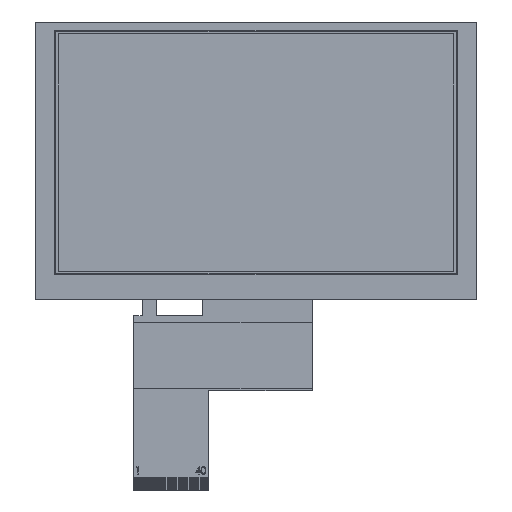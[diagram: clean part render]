
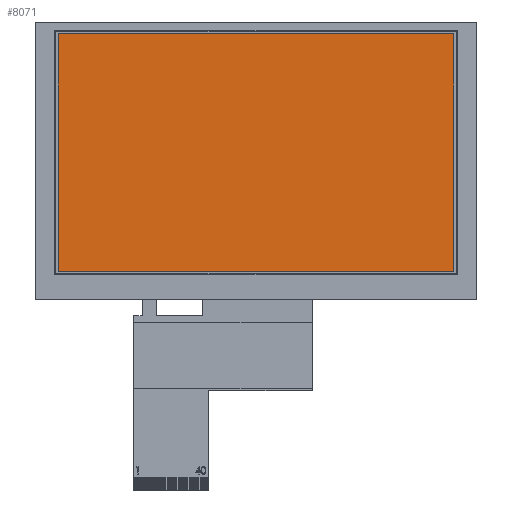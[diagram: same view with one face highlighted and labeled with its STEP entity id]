
A CAD part, top view. The second image highlights one B-rep face of the part: STEP entity #8071.
In plain terms, the highlighted planar face has unit normal (0, 0, 1).
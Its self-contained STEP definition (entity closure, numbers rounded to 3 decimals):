
#327 = CARTESIAN_POINT ( 'NONE',  ( -54., 32.4, 2.95 ) ) ;
#1069 = VERTEX_POINT ( 'NONE', #11224 ) ;
#1479 = CARTESIAN_POINT ( 'NONE',  ( 54., -32.4, 2.95 ) ) ;
#1866 = DIRECTION ( 'NONE',  ( 0., 0., 1. ) ) ;
#1997 = PLANE ( 'NONE',  #3409 ) ;
#2302 = CARTESIAN_POINT ( 'NONE',  ( 54., 32.4, 2.95 ) ) ;
#2408 = CARTESIAN_POINT ( 'NONE',  ( 0., -32.4, 2.95 ) ) ;
#3326 = VERTEX_POINT ( 'NONE', #1479 ) ;
#3386 = EDGE_LOOP ( 'NONE', ( #9704, #11694, #7693, #4337 ) ) ;
#3409 = AXIS2_PLACEMENT_3D ( 'NONE', #11037, #1866, #5941 ) ;
#3606 = CARTESIAN_POINT ( 'NONE',  ( 0., 32.4, 2.95 ) ) ;
#4337 = ORIENTED_EDGE ( 'NONE', *, *, #12070, .F. ) ;
#4524 = LINE ( 'NONE', #3606, #4824 ) ;
#4824 = VECTOR ( 'NONE', #12709, 1000. ) ;
#5043 = DIRECTION ( 'NONE',  ( 0., 1., 0. ) ) ;
#5147 = VERTEX_POINT ( 'NONE', #2302 ) ;
#5384 = CARTESIAN_POINT ( 'NONE',  ( 54., 0., 2.95 ) ) ;
#5475 = VECTOR ( 'NONE', #10227, 1000. ) ;
#5936 = EDGE_CURVE ( 'NONE', #3326, #1069, #6399, .T. ) ;
#5941 = DIRECTION ( 'NONE',  ( 1., 0., 0. ) ) ;
#6369 = LINE ( 'NONE', #5384, #5475 ) ;
#6399 = LINE ( 'NONE', #2408, #9696 ) ;
#6904 = VERTEX_POINT ( 'NONE', #327 ) ;
#7273 = LINE ( 'NONE', #10149, #7829 ) ;
#7693 = ORIENTED_EDGE ( 'NONE', *, *, #8873, .F. ) ;
#7829 = VECTOR ( 'NONE', #5043, 1000. ) ;
#7904 = FACE_OUTER_BOUND ( 'NONE', #3386, .T. ) ;
#8071 = ADVANCED_FACE ( 'NONE', ( #7904 ), #1997, .T. ) ;
#8502 = DIRECTION ( 'NONE',  ( -1., 0., 0. ) ) ;
#8873 = EDGE_CURVE ( 'NONE', #5147, #3326, #6369, .T. ) ;
#9696 = VECTOR ( 'NONE', #8502, 1000. ) ;
#9704 = ORIENTED_EDGE ( 'NONE', *, *, #9973, .F. ) ;
#9973 = EDGE_CURVE ( 'NONE', #1069, #6904, #7273, .T. ) ;
#10149 = CARTESIAN_POINT ( 'NONE',  ( -54., 0., 2.95 ) ) ;
#10227 = DIRECTION ( 'NONE',  ( 0., -1., 0. ) ) ;
#11037 = CARTESIAN_POINT ( 'NONE',  ( 0., 0., 2.95 ) ) ;
#11224 = CARTESIAN_POINT ( 'NONE',  ( -54., -32.4, 2.95 ) ) ;
#11694 = ORIENTED_EDGE ( 'NONE', *, *, #5936, .F. ) ;
#12070 = EDGE_CURVE ( 'NONE', #6904, #5147, #4524, .T. ) ;
#12709 = DIRECTION ( 'NONE',  ( 1., 0., 0. ) ) ;
